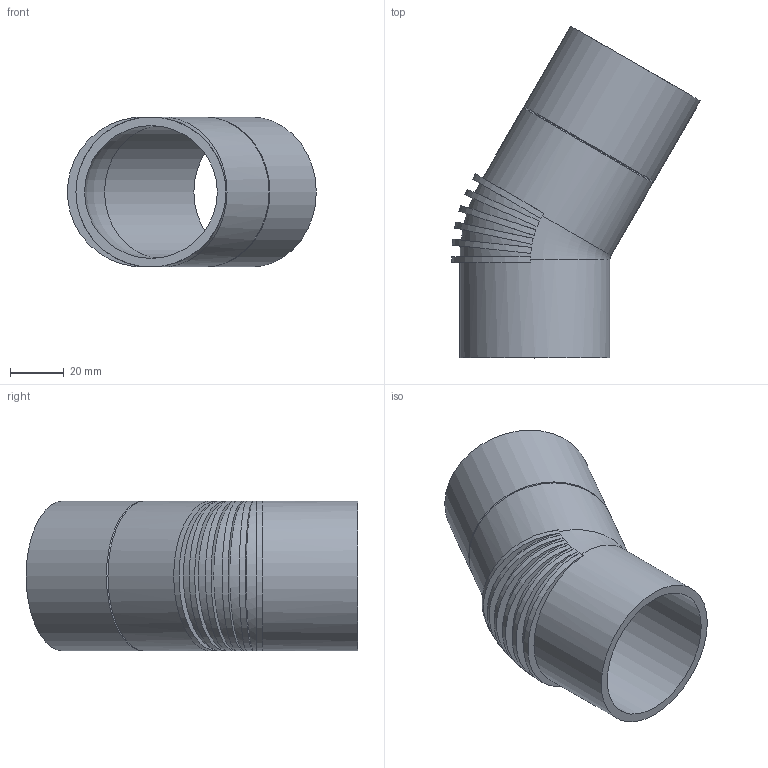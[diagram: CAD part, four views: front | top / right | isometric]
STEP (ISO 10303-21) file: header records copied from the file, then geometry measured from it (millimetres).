
FILE_DESCRIPTION(/* description */ (''),/* implementation_level */ '2;1');
FILE_NAME(/* name */ 'Z:\Geberit\Export\NewStep\Bogen_Ipart\stp\305300.stp',/* time_stamp */ '2014-04-03T16:42:08+02:00',/* author */ ('Marco'),/* organization */ (''),/* preprocessor_version */ 'ST-DEVELOPER v15.2',/* originating_system */ 'Autodesk Inventor 2014',/* authorisation */ '');
FILE_SCHEMA (('AUTOMOTIVE_DESIGN { 1 0 10303 214 3 1 1 }'));
Length unit declared in the file: millimetre
Products named in the file (1): 305300
Bounding box: 92.85 x 123.95 x 56 mm (x, y, z)
Volume: 65874.4 mm3; surface area: 43099.1 mm2
Topology: 1 solids, 1 shells, 29 faces, 78 edges, 51 vertices
Faces by surface type: plane 14, cylinder 11, cone 2, torus 2
Full cylindrical faces by diameter (mm): 49.6 x2, 56 x3
Entity records: 1186 total; most frequent: CARTESIAN_POINT 522, ORIENTED_EDGE 122, DIRECTION 114, EDGE_CURVE 61, AXIS2_PLACEMENT_3D 55, VERTEX_POINT 47, EDGE_LOOP 44, B_SPLINE_CURVE_WITH_KNOTS 32
